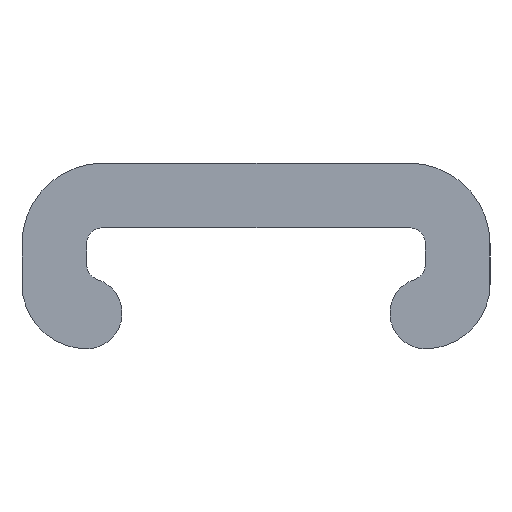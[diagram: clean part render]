
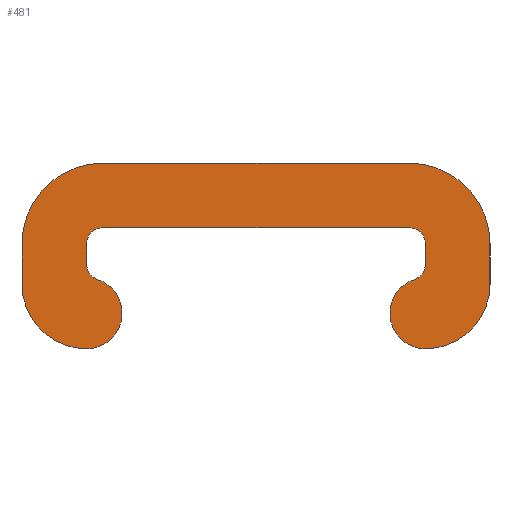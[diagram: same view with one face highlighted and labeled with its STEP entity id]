
A CAD part, left-side view. The second image highlights one B-rep face of the part: STEP entity #481.
In plain terms, the highlighted planar face has unit normal (-1, 0, 0).
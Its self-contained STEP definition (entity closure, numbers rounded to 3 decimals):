
#5 = EDGE_CURVE ( 'NONE', #538, #535, #627, .T. ) ;
#7 = EDGE_CURVE ( 'NONE', #531, #538, #954, .T. ) ;
#9 = EDGE_CURVE ( 'NONE', #536, #531, #603, .T. ) ;
#14 = EDGE_CURVE ( 'NONE', #542, #536, #764, .T. ) ;
#17 = EDGE_CURVE ( 'NONE', #524, #542, #834, .T. ) ;
#23 = EDGE_CURVE ( 'NONE', #554, #524, #595, .T. ) ;
#26 = EDGE_CURVE ( 'NONE', #527, #558, #919, .T. ) ;
#27 = EDGE_CURVE ( 'NONE', #535, #534, #961, .T. ) ;
#29 = EDGE_CURVE ( 'NONE', #529, #523, #920, .T. ) ;
#33 = EDGE_CURVE ( 'NONE', #529, #533, #577, .T. ) ;
#36 = EDGE_CURVE ( 'NONE', #534, #528, #856, .T. ) ;
#48 = EDGE_CURVE ( 'NONE', #526, #527, #644, .T. ) ;
#49 = EDGE_CURVE ( 'NONE', #540, #523, #759, .T. ) ;
#57 = EDGE_CURVE ( 'NONE', #533, #526, #757, .T. ) ;
#58 = EDGE_CURVE ( 'NONE', #528, #540, #722, .T. ) ;
#66 = DIRECTION ( 'NONE',  ( 0., 0., -1. ) ) ;
#67 = CARTESIAN_POINT ( 'NONE',  ( 261., 271., 13.5 ) ) ;
#68 = DIRECTION ( 'NONE',  ( 1., 0., 0. ) ) ;
#69 = DIRECTION ( 'NONE',  ( 0., 0., -1. ) ) ;
#87 = CARTESIAN_POINT ( 'NONE',  ( 261., 251., 18.5 ) ) ;
#88 = DIRECTION ( 'NONE',  ( 0., 0., -1. ) ) ;
#89 = CARTESIAN_POINT ( 'NONE',  ( 261., 272., 18.5 ) ) ;
#90 = DIRECTION ( 'NONE',  ( 0., 0., 1. ) ) ;
#103 = CARTESIAN_POINT ( 'NONE',  ( 261., 276., 18.5 ) ) ;
#104 = DIRECTION ( 'NONE',  ( 0., 0., -1. ) ) ;
#107 = CARTESIAN_POINT ( 'NONE',  ( 261., 271., 13.5 ) ) ;
#108 = DIRECTION ( 'NONE',  ( -1., 0., 0. ) ) ;
#109 = DIRECTION ( 'NONE',  ( 0., 0., 1. ) ) ;
#119 = CARTESIAN_POINT ( 'NONE',  ( 261., 247., 18.5 ) ) ;
#120 = DIRECTION ( 'NONE',  ( 0., 1., 0. ) ) ;
#126 = CARTESIAN_POINT ( 'NONE',  ( 261., 252., 13.5 ) ) ;
#127 = DIRECTION ( 'NONE',  ( -1., 0., 0. ) ) ;
#128 = DIRECTION ( 'NONE',  ( 0., 0., 1. ) ) ;
#154 = PLANE ( 'NONE',  #423 ) ;
#155 = CARTESIAN_POINT ( 'NONE',  ( 261., 247., 18.5 ) ) ;
#156 = DIRECTION ( 'NONE',  ( -1., 0., 0. ) ) ;
#157 = DIRECTION ( 'NONE',  ( 0., 0., 1. ) ) ;
#175 = CARTESIAN_POINT ( 'NONE',  ( 261., 271., 14.5 ) ) ;
#176 = CARTESIAN_POINT ( 'NONE',  ( 261., 247., 13.5 ) ) ;
#178 = CARTESIAN_POINT ( 'NONE',  ( 261., 251., 12.24 ) ) ;
#179 = CARTESIAN_POINT ( 'NONE',  ( 261., 251.688, 11.29 ) ) ;
#180 = CARTESIAN_POINT ( 'NONE',  ( 261., 272., 12.24 ) ) ;
#181 = CARTESIAN_POINT ( 'NONE',  ( 261., 252., 14.5 ) ) ;
#183 = CARTESIAN_POINT ( 'NONE',  ( 261., 276., 13.5 ) ) ;
#185 = CARTESIAN_POINT ( 'NONE',  ( 261., 251., 13.5 ) ) ;
#186 = CARTESIAN_POINT ( 'NONE',  ( 261., 271.313, 11.29 ) ) ;
#187 = CARTESIAN_POINT ( 'NONE',  ( 261., 272., 7. ) ) ;
#188 = CARTESIAN_POINT ( 'NONE',  ( 261., 271., 18.5 ) ) ;
#190 = CARTESIAN_POINT ( 'NONE',  ( 261., 276., 11. ) ) ;
#192 = CARTESIAN_POINT ( 'NONE',  ( 261., 272., 13.5 ) ) ;
#194 = CARTESIAN_POINT ( 'NONE',  ( 261., 252., 18.5 ) ) ;
#206 = CARTESIAN_POINT ( 'NONE',  ( 261., 247., 11. ) ) ;
#210 = CARTESIAN_POINT ( 'NONE',  ( 261., 251., 7. ) ) ;
#287 = CARTESIAN_POINT ( 'NONE',  ( 261., 271., 12.24 ) ) ;
#288 = DIRECTION ( 'NONE',  ( 1., 0., 0. ) ) ;
#289 = DIRECTION ( 'NONE',  ( 0., 0., -1. ) ) ;
#318 = CARTESIAN_POINT ( 'NONE',  ( 261., 252., 12.24 ) ) ;
#319 = DIRECTION ( 'NONE',  ( 1., 0., 0. ) ) ;
#342 = AXIS2_PLACEMENT_3D ( 'NONE', #1083, #1084, #1085 ) ;
#391 = AXIS2_PLACEMENT_3D ( 'NONE', #67, #68, #69 ) ;
#392 = AXIS2_PLACEMENT_3D ( 'NONE', #318, #319, #66 ) ;
#399 = AXIS2_PLACEMENT_3D ( 'NONE', #287, #288, #289 ) ;
#401 = AXIS2_PLACEMENT_3D ( 'NONE', #518, #519, #520 ) ;
#405 = AXIS2_PLACEMENT_3D ( 'NONE', #502, #503, #504 ) ;
#406 = AXIS2_PLACEMENT_3D ( 'NONE', #499, #500, #501 ) ;
#410 = AXIS2_PLACEMENT_3D ( 'NONE', #126, #127, #128 ) ;
#422 = AXIS2_PLACEMENT_3D ( 'NONE', #107, #108, #109 ) ;
#423 = AXIS2_PLACEMENT_3D ( 'NONE', #155, #156, #157 ) ;
#426 = AXIS2_PLACEMENT_3D ( 'NONE', #567, #568, #569 ) ;
#453 = EDGE_CURVE ( 'NONE', #558, #554, #933, .T. ) ;
#481 = ADVANCED_FACE ( 'NONE', ( #851 ), #154, .T. ) ;
#492 = CARTESIAN_POINT ( 'NONE',  ( 261., 247., 18.5 ) ) ;
#493 = DIRECTION ( 'NONE',  ( 0., 0., 1. ) ) ;
#499 = CARTESIAN_POINT ( 'NONE',  ( 261., 251., 9.2 ) ) ;
#500 = DIRECTION ( 'NONE',  ( -1., 0., 0. ) ) ;
#501 = DIRECTION ( 'NONE',  ( 0., 0., 1. ) ) ;
#502 = CARTESIAN_POINT ( 'NONE',  ( 261., 272., 9.2 ) ) ;
#503 = DIRECTION ( 'NONE',  ( -1., 0., 0. ) ) ;
#504 = DIRECTION ( 'NONE',  ( 0., 0., 1. ) ) ;
#507 = CARTESIAN_POINT ( 'NONE',  ( 261., 252., 14.5 ) ) ;
#508 = DIRECTION ( 'NONE',  ( 0., 1., 0. ) ) ;
#518 = CARTESIAN_POINT ( 'NONE',  ( 261., 252., 13.5 ) ) ;
#519 = DIRECTION ( 'NONE',  ( 1., 0., 0. ) ) ;
#520 = DIRECTION ( 'NONE',  ( 0., 0., -1. ) ) ;
#523 = VERTEX_POINT ( 'NONE', #175 ) ;
#524 = VERTEX_POINT ( 'NONE', #176 ) ;
#526 = VERTEX_POINT ( 'NONE', #178 ) ;
#527 = VERTEX_POINT ( 'NONE', #179 ) ;
#528 = VERTEX_POINT ( 'NONE', #180 ) ;
#529 = VERTEX_POINT ( 'NONE', #181 ) ;
#531 = VERTEX_POINT ( 'NONE', #183 ) ;
#533 = VERTEX_POINT ( 'NONE', #185 ) ;
#534 = VERTEX_POINT ( 'NONE', #186 ) ;
#535 = VERTEX_POINT ( 'NONE', #187 ) ;
#536 = VERTEX_POINT ( 'NONE', #188 ) ;
#538 = VERTEX_POINT ( 'NONE', #190 ) ;
#540 = VERTEX_POINT ( 'NONE', #192 ) ;
#542 = VERTEX_POINT ( 'NONE', #194 ) ;
#554 = VERTEX_POINT ( 'NONE', #206 ) ;
#558 = VERTEX_POINT ( 'NONE', #210 ) ;
#567 = CARTESIAN_POINT ( 'NONE',  ( 261., 272., 11. ) ) ;
#568 = DIRECTION ( 'NONE',  ( -1., 0., 0. ) ) ;
#569 = DIRECTION ( 'NONE',  ( 0., 0., 1. ) ) ;
#577 = CIRCLE ( 'NONE', #401, 1. ) ;
#593 = ORIENTED_EDGE ( 'NONE', *, *, #7, .T. ) ;
#595 = LINE ( 'NONE', #492, #742 ) ;
#600 = ORIENTED_EDGE ( 'NONE', *, *, #9, .T. ) ;
#603 = CIRCLE ( 'NONE', #422, 5. ) ;
#609 = ORIENTED_EDGE ( 'NONE', *, *, #14, .T. ) ;
#613 = EDGE_LOOP ( 'NONE', ( #754, #749, #639, #653, #609, #600, #593, #662, #767, #709, #735, #655, #815, #638, #771, #691 ) ) ;
#627 = CIRCLE ( 'NONE', #426, 4. ) ;
#638 = ORIENTED_EDGE ( 'NONE', *, *, #33, .T. ) ;
#639 = ORIENTED_EDGE ( 'NONE', *, *, #23, .T. ) ;
#640 = VECTOR ( 'NONE', #90, 1000. ) ;
#644 = CIRCLE ( 'NONE', #392, 1. ) ;
#653 = ORIENTED_EDGE ( 'NONE', *, *, #17, .T. ) ;
#655 = ORIENTED_EDGE ( 'NONE', *, *, #49, .T. ) ;
#662 = ORIENTED_EDGE ( 'NONE', *, *, #5, .T. ) ;
#691 = ORIENTED_EDGE ( 'NONE', *, *, #48, .T. ) ;
#709 = ORIENTED_EDGE ( 'NONE', *, *, #36, .T. ) ;
#722 = LINE ( 'NONE', #89, #640 ) ;
#735 = ORIENTED_EDGE ( 'NONE', *, *, #58, .T. ) ;
#742 = VECTOR ( 'NONE', #493, 1000. ) ;
#749 = ORIENTED_EDGE ( 'NONE', *, *, #453, .T. ) ;
#754 = ORIENTED_EDGE ( 'NONE', *, *, #26, .T. ) ;
#757 = LINE ( 'NONE', #87, #832 ) ;
#759 = CIRCLE ( 'NONE', #391, 1. ) ;
#764 = LINE ( 'NONE', #119, #996 ) ;
#767 = ORIENTED_EDGE ( 'NONE', *, *, #27, .T. ) ;
#771 = ORIENTED_EDGE ( 'NONE', *, *, #57, .T. ) ;
#815 = ORIENTED_EDGE ( 'NONE', *, *, #29, .F. ) ;
#832 = VECTOR ( 'NONE', #88, 1000. ) ;
#834 = CIRCLE ( 'NONE', #410, 5. ) ;
#851 = FACE_OUTER_BOUND ( 'NONE', #613, .T. ) ;
#856 = CIRCLE ( 'NONE', #399, 1. ) ;
#919 = CIRCLE ( 'NONE', #406, 2.2 ) ;
#920 = LINE ( 'NONE', #507, #923 ) ;
#923 = VECTOR ( 'NONE', #508, 1000. ) ;
#933 = CIRCLE ( 'NONE', #342, 4. ) ;
#954 = LINE ( 'NONE', #103, #1004 ) ;
#961 = CIRCLE ( 'NONE', #405, 2.2 ) ;
#996 = VECTOR ( 'NONE', #120, 1000. ) ;
#1004 = VECTOR ( 'NONE', #104, 1000. ) ;
#1083 = CARTESIAN_POINT ( 'NONE',  ( 261., 251., 11. ) ) ;
#1084 = DIRECTION ( 'NONE',  ( -1., 0., 0. ) ) ;
#1085 = DIRECTION ( 'NONE',  ( 0., 0., 1. ) ) ;
